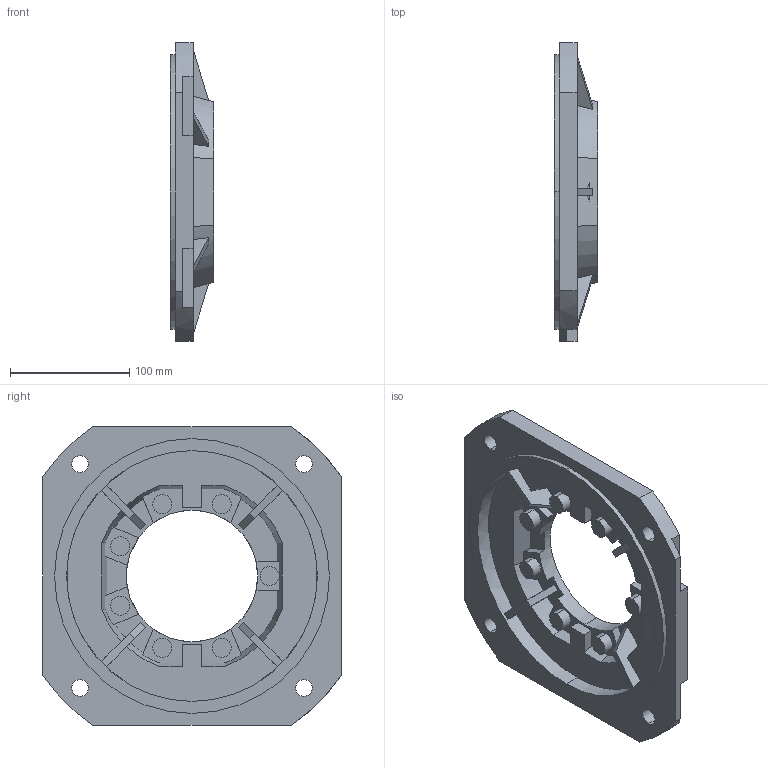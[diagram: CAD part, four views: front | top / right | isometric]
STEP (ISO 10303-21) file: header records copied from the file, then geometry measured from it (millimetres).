
FILE_DESCRIPTION(/* description */ (''),/* implementation_level */ '2;1');
FILE_NAME(/* name */ '1_FLANGIA (CAMPANA) LATERALE FA H062',/* time_stamp */ '2025-10-31T14:17:12+01:00',/* author */ (''),/* organization */ (''),/* preprocessor_version */ 'ST-DEVELOPER v19.2',/* originating_system */ 'Rhino 8.23',/* authorisation */ '');
FILE_SCHEMA (('CONFIG_CONTROL_DESIGN'));
Length unit declared in the file: millimetre
Products named in the file (3): Document; FU062FA-17; Blocco 01
Bounding box: 36 x 250 x 250 mm (x, y, z)
Volume: 655196.5 mm3; surface area: 157232.1 mm2
Topology: 5 solids, 5 shells, 174 faces, 465 edges, 310 vertices
Faces by surface type: plane 116, cylinder 42, bspline 16
Entity records: 7132 total; most frequent: CARTESIAN_POINT 1946, ORIENTED_EDGE 930, EDGE_CURVE 465, DIRECTION 426, B_SPLINE_CURVE_WITH_KNOTS 314, VERTEX_POINT 310, AXIS2_PLACEMENT_3D 292, EDGE_LOOP 193
